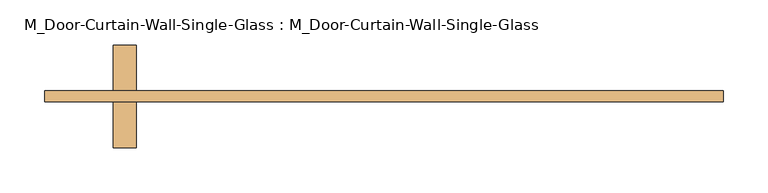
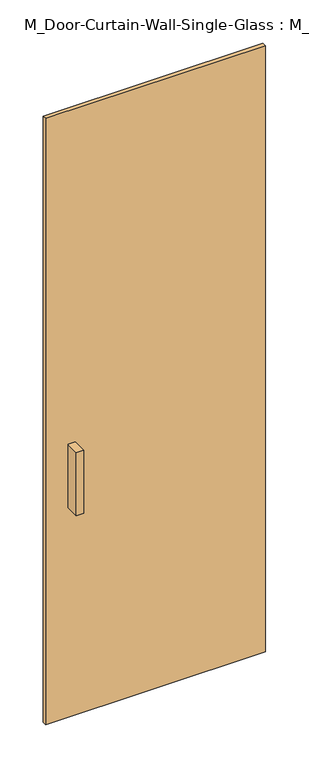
"""IFC4 building model written with IfcOpenShell, lengths in millimetres: door geometry, M_Door-Curtain-Wall-Single-Glass : M_Door-Curtain-Wall-Single-Glass."""

from ifc_helpers import new_model, si_unit, frame, origin, origin_with_axes, place, context, project, spatial, polyline, outline, extrude, source, transform, mapped, element, save


def m_door_curtain_wall_single_glass_m_door_curtain_wall_single_b32948e9(model_context):
    return source(origin(), model_context, "Body", "SweptSolid", [
        extrude(outline(polyline([(377.5, -50.8), (-377.5, -50.8), (-377.5, -38.1), (377.5, -38.1), (377.5, -50.8)])), origin_with_axes(), (0.0, 0.0, 1.0), 2200.0),
        extrude(outline(polyline([(-275.9, 12.7), (-275.9, -38.1), (-301.3, -38.1), (-301.3, 12.7), (-275.9, 12.7)])), frame((0.0, 0.0, 762.0), z_axis=(0.0, 0.0, 1.0), x_axis=(1.0, 0.0, 0.0)), (0.0, 0.0, 1.0), 228.6),
        extrude(outline(polyline([(-301.3, -101.6), (-301.3, -50.8), (-275.9, -50.8), (-275.9, -101.6), (-301.3, -101.6)])), frame((0.0, 0.0, 762.0), z_axis=(0.0, 0.0, 1.0), x_axis=(1.0, 0.0, 0.0)), (0.0, 0.0, 1.0), 228.6),
    ])


if __name__ == "__main__":
    model = new_model("IFC4")
    model_context = context("Model", 3, world=origin())
    ifc_project = project(units=[si_unit("LENGTHUNIT", "METRE", prefix="MILLI")], contexts=[model_context])
    site = spatial("IfcSite", under=ifc_project)
    building = spatial("IfcBuilding", under=site)
    placement = place(None, origin())
    m_door_curtain_wall_single_glass_m_door_curtain_wall_single_shape = m_door_curtain_wall_single_glass_m_door_curtain_wall_single_b32948e9(model_context)
    element("IfcDoor", 1, ObjectType="M_Door-Curtain-Wall-Single-Glass : M_Door-Curtain-Wall-Single-Glass", at=placement, inside=building, context=model_context, shape_type="MappedRepresentation", body=[
        mapped(m_door_curtain_wall_single_glass_m_door_curtain_wall_single_shape, transform((0.0, 0.0, 0.0), x_axis=(1.0, 0.0, 0.0), y_axis=(0.0, 1.0, 0.0), z_axis=(0.0, 0.0, 1.0))),
    ])
    save(model, "model.ifc")
